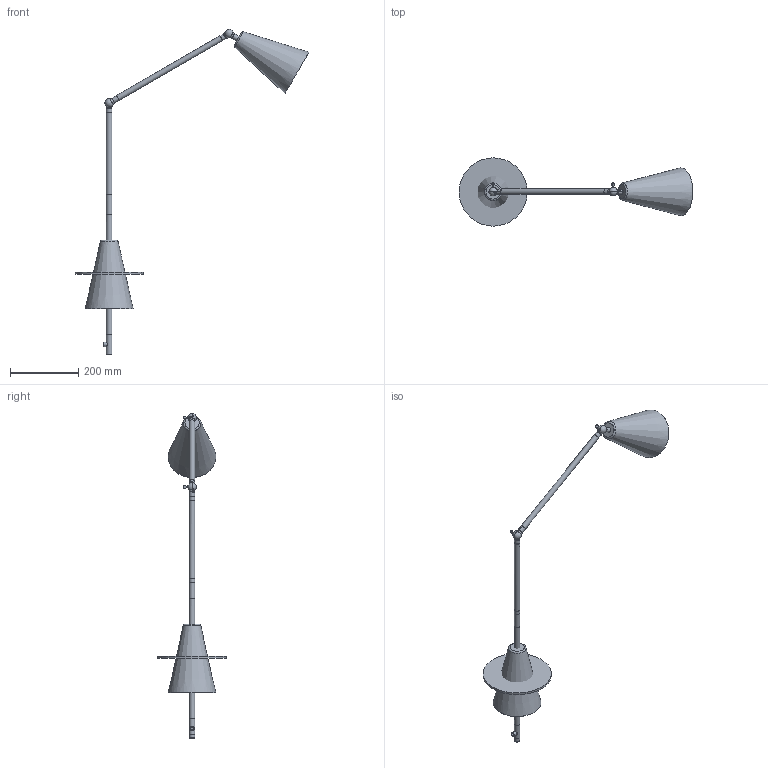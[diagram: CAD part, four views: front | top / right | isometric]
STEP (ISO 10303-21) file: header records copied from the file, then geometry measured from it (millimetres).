
FILE_DESCRIPTION( ( 'STEP AP203' ), '1' );
FILE_NAME( '//srvbf/BF Disegni/NEOS (ex MEG)/NEOS-L Lumetto 3D.stp', '2020-10-15T15:24:37', ( ' ' ), ( ' ' ), 'XStep 1.0', ' ', ' ' );
FILE_SCHEMA( ( 'CONFIG_CONTROL_DESIGN) ( )' ) );
Length unit declared in the file: metre
Products named in the file (10): Assem1; 1; 2; 3; 4; 5; 6; 7; 8; 9
Bounding box: 685.54 x 200 x 953.05 mm (x, y, z)
Volume: 686108 mm3; surface area: 548220.1 mm2
Topology: 21 solids, 21 shells, 270 faces, 642 edges, 407 vertices
Faces by surface type: plane 125, cylinder 66, torus 40, cone 27, sphere 12
Full cylindrical faces by diameter (mm): 4.917 x2, 6.5 x2, 8.917 x6, 9 x3, 10 x2, 12.8 x4, 13 x4, 16 x7, 200 x2
Entity records: 3268 total; most frequent: CARTESIAN_POINT 585, DIRECTION 514, ORIENTED_EDGE 390, AXIS2_PLACEMENT_3D 217, EDGE_CURVE 195, EDGE_LOOP 143, VERTEX_POINT 136, FACE_OUTER_BOUND 121
